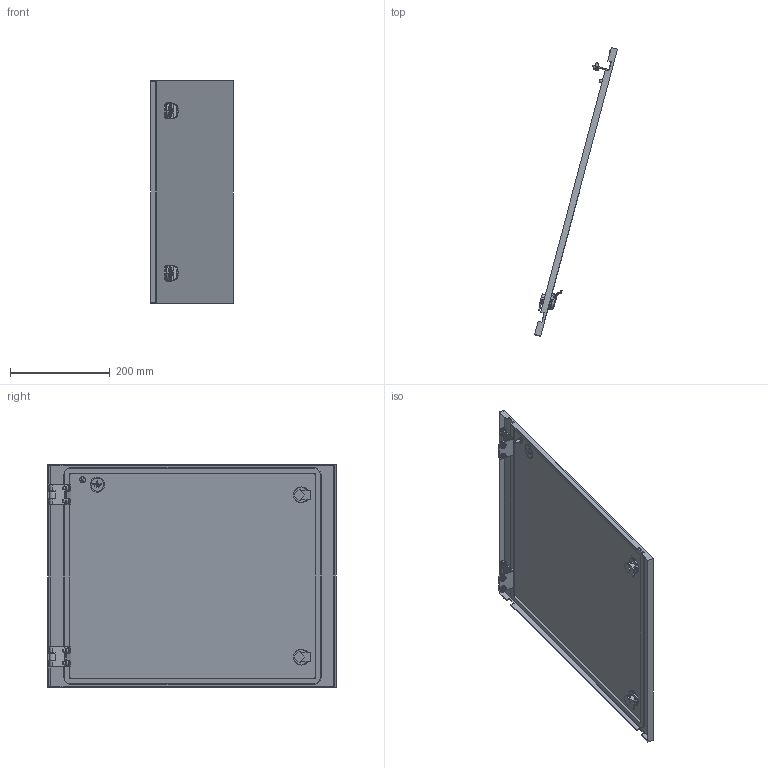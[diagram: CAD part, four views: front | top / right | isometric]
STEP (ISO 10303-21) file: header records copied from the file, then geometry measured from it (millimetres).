
FILE_DESCRIPTION (( 'STEP AP214' ), '1' );
FILE_NAME ('FO-00-ESD-045-060 Äâåðü ñåêöèîííàÿ âíåøíÿÿ 450x600 ìì.STEP', '2025-08-20T06:21:43', ( '' ), ( '' ), 'SwSTEP 2.0', 'SolidWorks 2023', '' );
FILE_SCHEMA (( 'AUTOMOTIVE_DESIGN' ));
Length unit declared in the file: millimetre
Products named in the file (4): FO-00-ESD-045-060 Дверь секционная внешняя 450x600 мм; Петля.STEP; Дверь секционная внешняя 450х600.STEP; FO-00-ESD-045-060 Дверь секционная внешняя 450x600 мм.STEP
Assembly tree (4 placements, depth 3):
  FO-00-ESD-045-060 Дверь секционная внешняя 450x600 мм
    FO-00-ESD-045-060 Дверь секционная внешняя 450x600 мм.STEP
      Дверь секционная внешняя 450х600.STEP
      Петля.STEP  x2
Bounding box: 165.93 x 578 x 446 mm (x, y, z)
Volume: 693599.8 mm3; surface area: 615934.7 mm2
Topology: 3 solids, 12 shells, 707 faces, 1809 edges, 1168 vertices
Faces by surface type: plane 343, cylinder 268, torus 34, cone 32, bspline 30
Entity records: 20694 total; most frequent: CARTESIAN_POINT 5778, ORIENTED_EDGE 3108, DIRECTION 3078, EDGE_CURVE 1554, AXIS2_PLACEMENT_3D 1056, VERTEX_POINT 1006, LINE 966, VECTOR 966
